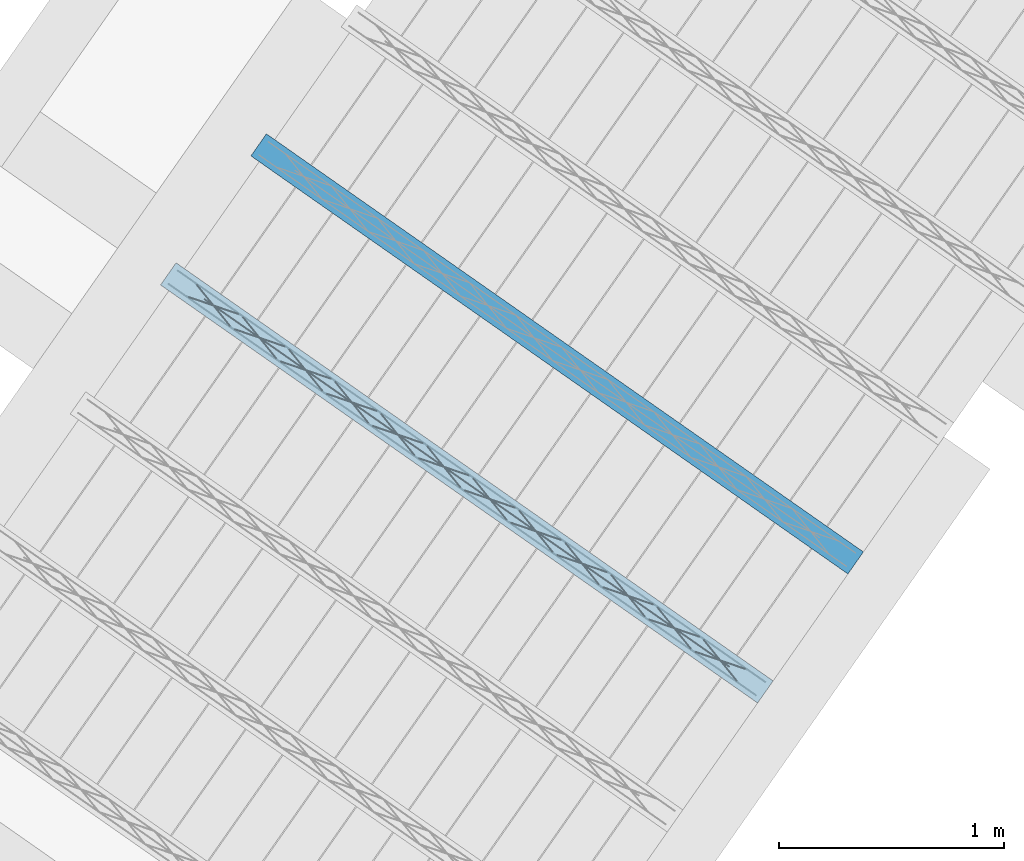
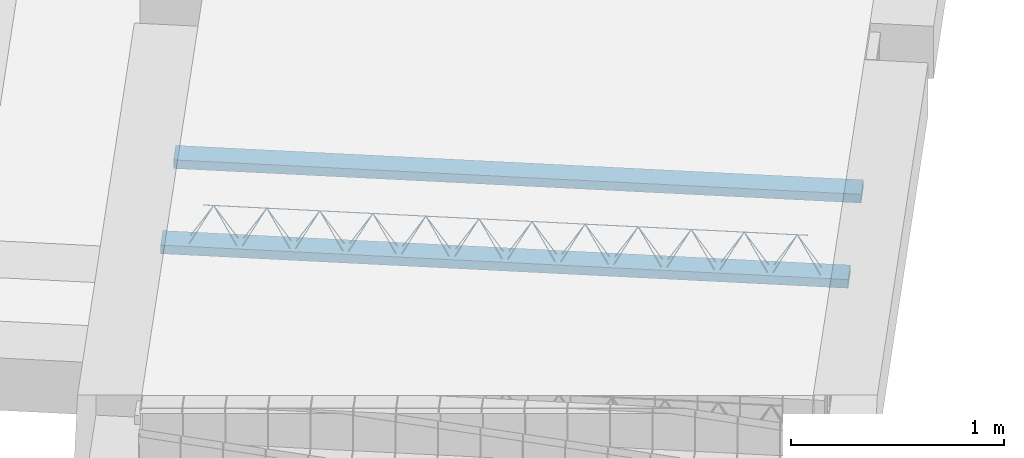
# One storey, part 8 of 46: 2 beams.
"""IFC2X3 building model written with IfcOpenShell, lengths in metres."""

from ifc_helpers import new_model, entity, si_unit, converted_unit, derived_unit, direction, frame, frame_2d, origin, origin_2d_with_axis, place, context, subcontext, project, spatial, rectangle, circle, extrude, material, type_object, element, save


model = new_model("IFC2X3")

# Units and contexts
model_context = context("Model", 3, precision=1e-05, world=origin(), true_north=direction((6.123031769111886e-17, 1.0)))
body_context = subcontext(model_context, "Body", "Model", "MODEL_VIEW")
ifc_project = project(units=[si_unit("LENGTHUNIT", "METRE"), si_unit("AREAUNIT", "SQUARE_METRE"), si_unit("VOLUMEUNIT", "CUBIC_METRE"), converted_unit("PLANEANGLEUNIT", "DEGREE", entity("IfcPlaneAngleMeasure", 0.017453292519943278), si_unit("PLANEANGLEUNIT", "RADIAN"), dimensions=[0, 0, 0, 0, 0, 0, 0]), si_unit("MASSUNIT", "GRAM", prefix="KILO"), derived_unit("MASSDENSITYUNIT", [(si_unit("MASSUNIT", "GRAM", prefix="KILO"), 1), (si_unit("LENGTHUNIT", "METRE"), -3)]), derived_unit("IONCONCENTRATIONUNIT", [(si_unit("MASSUNIT", "GRAM", prefix="KILO"), 1), (si_unit("LENGTHUNIT", "METRE"), -3)]), derived_unit("MOMENTOFINERTIAUNIT", [(si_unit("LENGTHUNIT", "METRE"), 4)]), si_unit("TIMEUNIT", "SECOND"), si_unit("FREQUENCYUNIT", "HERTZ"), si_unit("THERMODYNAMICTEMPERATUREUNIT", "DEGREE_CELSIUS"), derived_unit("THERMALTRANSMITTANCEUNIT", [(si_unit("MASSUNIT", "GRAM", prefix="KILO"), 1), (si_unit("THERMODYNAMICTEMPERATUREUNIT", "KELVIN"), -1), (si_unit("TIMEUNIT", "SECOND"), -3)]), derived_unit("THERMALCONDUCTANCEUNIT", [(si_unit("MASSUNIT", "GRAM", prefix="KILO"), 1), (si_unit("THERMODYNAMICTEMPERATUREUNIT", "KELVIN"), -1), (si_unit("TIMEUNIT", "SECOND"), -3), (si_unit("LENGTHUNIT", "METRE"), 1)]), derived_unit("VOLUMETRICFLOWRATEUNIT", [(si_unit("LENGTHUNIT", "METRE", prefix="DECI"), 3), (si_unit("TIMEUNIT", "SECOND"), -1)]), derived_unit("MASSFLOWRATEUNIT", [(si_unit("MASSUNIT", "GRAM", prefix="KILO"), 1), (si_unit("TIMEUNIT", "SECOND"), -1)]), derived_unit("ROTATIONALFREQUENCYUNIT", [(si_unit("TIMEUNIT", "SECOND"), -1)]), si_unit("ELECTRICCURRENTUNIT", "AMPERE"), si_unit("ELECTRICVOLTAGEUNIT", "VOLT"), si_unit("POWERUNIT", "WATT"), si_unit("FORCEUNIT", "NEWTON", prefix="KILO"), si_unit("ILLUMINANCEUNIT", "LUX"), si_unit("LUMINOUSFLUXUNIT", "LUMEN"), si_unit("LUMINOUSINTENSITYUNIT", "CANDELA"), si_unit("ENERGYUNIT", "JOULE"), derived_unit("USERDEFINED", [(si_unit("MASSUNIT", "GRAM", prefix="KILO"), -1), (si_unit("LENGTHUNIT", "METRE"), -2), (si_unit("TIMEUNIT", "SECOND"), 3), (si_unit("LUMINOUSFLUXUNIT", "LUMEN"), 1)]), derived_unit("USERDEFINED", [(si_unit("MASSUNIT", "GRAM", prefix="KILO"), 1), (si_unit("TIMEUNIT", "SECOND"), -3), (si_unit("LENGTHUNIT", "METRE"), 3), (si_unit("ELECTRICCURRENTUNIT", "AMPERE"), -2)]), derived_unit("SOUNDPOWERUNIT", [(si_unit("MASSUNIT", "GRAM", prefix="KILO"), 1), (si_unit("TIMEUNIT", "SECOND"), -3), (si_unit("LENGTHUNIT", "METRE"), 2)]), derived_unit("SOUNDPRESSUREUNIT", [(si_unit("MASSUNIT", "GRAM", prefix="KILO"), 1), (si_unit("LENGTHUNIT", "METRE"), -1), (si_unit("TIMEUNIT", "SECOND"), -2)]), derived_unit("LINEARVELOCITYUNIT", [(si_unit("LENGTHUNIT", "METRE"), 1), (si_unit("TIMEUNIT", "SECOND"), -1)]), si_unit("PRESSUREUNIT", "PASCAL"), derived_unit("USERDEFINED", [(si_unit("MASSUNIT", "GRAM", prefix="KILO"), 1), (si_unit("LENGTHUNIT", "METRE"), -2), (si_unit("TIMEUNIT", "SECOND"), -2)]), derived_unit("LINEARFORCEUNIT", [(si_unit("MASSUNIT", "GRAM", prefix="KILO"), 1), (si_unit("TIMEUNIT", "SECOND"), -2)]), derived_unit("PLANARFORCEUNIT", [(si_unit("MASSUNIT", "GRAM", prefix="KILO"), 1), (si_unit("LENGTHUNIT", "METRE"), -1), (si_unit("TIMEUNIT", "SECOND"), -2)]), derived_unit("SPECIFICHEATCAPACITYUNIT", [(si_unit("THERMODYNAMICTEMPERATUREUNIT", "KELVIN"), -1), (si_unit("LENGTHUNIT", "METRE"), 2), (si_unit("TIMEUNIT", "SECOND"), -2)]), derived_unit("HEATFLUXDENSITYUNIT", [(si_unit("MASSUNIT", "GRAM", prefix="KILO"), 1), (si_unit("TIMEUNIT", "SECOND"), -3)]), derived_unit("HEATINGVALUEUNIT", [(si_unit("LENGTHUNIT", "METRE"), 2), (si_unit("TIMEUNIT", "SECOND"), -2)]), derived_unit("VAPORPERMEABILITYUNIT", [(si_unit("LENGTHUNIT", "METRE"), -1), (si_unit("TIMEUNIT", "SECOND"), 1)]), derived_unit("DYNAMICVISCOSITYUNIT", [(si_unit("MASSUNIT", "GRAM", prefix="KILO"), 1), (si_unit("TIMEUNIT", "SECOND"), -1), (si_unit("LENGTHUNIT", "METRE"), -1)]), derived_unit("THERMALEXPANSIONCOEFFICIENTUNIT", [(si_unit("THERMODYNAMICTEMPERATUREUNIT", "KELVIN"), -1)]), derived_unit("MODULUSOFELASTICITYUNIT", [(si_unit("MASSUNIT", "GRAM", prefix="KILO"), 1), (si_unit("LENGTHUNIT", "METRE"), -1), (si_unit("TIMEUNIT", "SECOND"), -2)]), derived_unit("ISOTHERMALMOISTURECAPACITYUNIT", [(si_unit("MASSUNIT", "GRAM", prefix="KILO"), -1), (si_unit("LENGTHUNIT", "METRE"), 3)]), derived_unit("MOISTUREDIFFUSIVITYUNIT", [(si_unit("TIMEUNIT", "SECOND"), -1), (si_unit("LENGTHUNIT", "METRE"), 2)]), derived_unit("MASSPERLENGTHUNIT", [(si_unit("MASSUNIT", "GRAM", prefix="KILO"), 1), (si_unit("LENGTHUNIT", "METRE"), -1)]), derived_unit("THERMALRESISTANCEUNIT", [(si_unit("MASSUNIT", "GRAM", prefix="KILO"), -1), (si_unit("TIMEUNIT", "SECOND"), 3), (si_unit("THERMODYNAMICTEMPERATUREUNIT", "KELVIN"), 1)]), derived_unit("ACCELERATIONUNIT", [(si_unit("LENGTHUNIT", "METRE"), 1), (si_unit("TIMEUNIT", "SECOND"), -2)]), derived_unit("ANGULARVELOCITYUNIT", [(si_unit("TIMEUNIT", "SECOND"), -1), (si_unit("PLANEANGLEUNIT", "RADIAN"), 1)]), derived_unit("LINEARSTIFFNESSUNIT", [(si_unit("MASSUNIT", "GRAM", prefix="KILO"), 1), (si_unit("TIMEUNIT", "SECOND"), -2)]), derived_unit("WARPINGCONSTANTUNIT", [(si_unit("LENGTHUNIT", "METRE"), 6)]), derived_unit("LINEARMOMENTUNIT", [(si_unit("MASSUNIT", "GRAM", prefix="KILO"), 1), (si_unit("LENGTHUNIT", "METRE"), 1), (si_unit("TIMEUNIT", "SECOND"), -2)]), derived_unit("TORQUEUNIT", [(si_unit("MASSUNIT", "GRAM", prefix="KILO"), 1), (si_unit("LENGTHUNIT", "METRE"), 2), (si_unit("TIMEUNIT", "SECOND"), -2)])], contexts=[model_context])

# Site, building, storey
site_placement = place(None, origin())
site = spatial("IfcSite", under=ifc_project, at=site_placement, Name="Default", CompositionType="ELEMENT")
building_placement = place(site_placement, origin())
building = spatial("IfcBuilding", under=site, at=building_placement, CompositionType="ELEMENT")
storey_placement = place(building_placement, frame((0.0, 0.0, 99.52000000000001)))
storey = spatial("IfcBuildingStorey", under=building, at=storey_placement, Name="F1", CompositionType="ELEMENT", Elevation=99.52000000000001)

# Beams
beam_type = type_object("IfcBeamType", Name="Vigueta 4 (Paño 4) (Mf = 14.11)", PredefinedType="JOIST")
beam_1_placement = place(storey_placement, origin())
element("IfcBeam", 1, at=beam_1_placement, inside=storey, type_object=beam_type, Name="Vigueta 4 (Paño 4) (Mf = 14.11)", ObjectType="Mf = 14.11", context=body_context, shape_type="SweptSolid", body=[
    extrude(rectangle(XDim=3.24, YDim=0.12000000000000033, at=frame_2d((5.551115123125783e-16, 2.0122792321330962e-16), x_axis=(1.0, 0.0))), frame((6.986956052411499, -2.9997741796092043, 0.2000000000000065), z_axis=(0.0, 0.0, 1.0), x_axis=(0.8191520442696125, -0.5735764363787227, 0.0)), (0.0, 0.0, 1.0), 0.0499999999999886),
    extrude(circle(Radius=0.0025, at=origin_2d_with_axis()), frame((5.6589406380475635, -2.1138356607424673, 0.22500000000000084), z_axis=(0.8191520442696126, -0.5735764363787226, 0.0), x_axis=(-0.5735764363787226, -0.8191520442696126, 0.0)), (0.0, 0.0, 1.0), 3.191999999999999),
    extrude(circle(Radius=0.0025, at=origin_2d_with_axis()), frame((5.819664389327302, -2.1824277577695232, 0.4500000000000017), z_axis=(0.8191520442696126, -0.5735764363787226, 0.0), x_axis=(-0.5735764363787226, -0.8191520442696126, 0.0)), (0.0, 0.0, 1.0), 2.849999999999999),
    extrude(circle(Radius=0.0025, at=origin_2d_with_axis()), frame((8.195035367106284, -3.8896283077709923, 0.22500000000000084), z_axis=(-0.3145304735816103, 0.389334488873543, 0.8657304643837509), x_axis=(-0.7778747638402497, -0.6284193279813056, 0.0)), (0.0, 0.0, 1.0), 0.2598961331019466),
    extrude(circle(Radius=0.0025, at=origin_2d_with_axis()), frame((7.990247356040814, -3.7462341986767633, 0.22499999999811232), z_axis=(0.47343050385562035, -0.1624017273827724, 0.8657304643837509), x_axis=(-0.3244721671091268, -0.9458952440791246, 0.0)), (0.0, 0.0, 1.0), 0.25989613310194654),
    extrude(circle(Radius=0.0025, at=origin_2d_with_axis()), frame((7.990247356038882, -3.746234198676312, 0.22500000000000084), z_axis=(-0.3145304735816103, 0.389334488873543, 0.8657304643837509), x_axis=(-0.7778747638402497, -0.6284193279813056, 0.0)), (0.0, 0.0, 1.0), 0.2598961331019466),
    extrude(circle(Radius=0.0025, at=origin_2d_with_axis()), frame((7.78545934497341, -3.6028400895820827, 0.22499999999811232), z_axis=(0.47343050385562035, -0.1624017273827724, 0.8657304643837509), x_axis=(-0.3244721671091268, -0.9458952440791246, 0.0)), (0.0, 0.0, 1.0), 0.25989613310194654),
    extrude(circle(Radius=0.0025, at=origin_2d_with_axis()), frame((7.785459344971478, -3.602840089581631, 0.22500000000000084), z_axis=(-0.3145304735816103, 0.389334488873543, 0.8657304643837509), x_axis=(-0.7778747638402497, -0.6284193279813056, 0.0)), (0.0, 0.0, 1.0), 0.2598961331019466),
    extrude(circle(Radius=0.0025, at=origin_2d_with_axis()), frame((7.5806713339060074, -3.4594459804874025, 0.22499999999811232), z_axis=(0.47343050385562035, -0.1624017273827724, 0.8657304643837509), x_axis=(-0.3244721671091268, -0.9458952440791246, 0.0)), (0.0, 0.0, 1.0), 0.25989613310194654),
    extrude(circle(Radius=0.0025, at=origin_2d_with_axis()), frame((7.580671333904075, -3.4594459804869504, 0.22500000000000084), z_axis=(-0.3145304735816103, 0.389334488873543, 0.8657304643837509), x_axis=(-0.7778747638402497, -0.6284193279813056, 0.0)), (0.0, 0.0, 1.0), 0.2598961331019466),
    extrude(circle(Radius=0.0025, at=origin_2d_with_axis()), frame((7.375883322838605, -3.3160518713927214, 0.22499999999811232), z_axis=(0.47343050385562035, -0.1624017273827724, 0.8657304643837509), x_axis=(-0.3244721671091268, -0.9458952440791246, 0.0)), (0.0, 0.0, 1.0), 0.25989613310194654),
    extrude(circle(Radius=0.0025, at=origin_2d_with_axis()), frame((7.375883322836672, -3.3160518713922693, 0.22500000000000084), z_axis=(-0.3145304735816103, 0.389334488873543, 0.8657304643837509), x_axis=(-0.7778747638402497, -0.6284193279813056, 0.0)), (0.0, 0.0, 1.0), 0.2598961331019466),
    extrude(circle(Radius=0.0025, at=origin_2d_with_axis()), frame((7.171095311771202, -3.1726577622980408, 0.22499999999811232), z_axis=(0.47343050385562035, -0.1624017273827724, 0.8657304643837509), x_axis=(-0.3244721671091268, -0.9458952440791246, 0.0)), (0.0, 0.0, 1.0), 0.25989613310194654),
    extrude(circle(Radius=0.0025, at=origin_2d_with_axis()), frame((7.171095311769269, -3.172657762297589, 0.22500000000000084), z_axis=(-0.3145304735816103, 0.389334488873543, 0.8657304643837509), x_axis=(-0.7778747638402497, -0.6284193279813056, 0.0)), (0.0, 0.0, 1.0), 0.2598961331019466),
    extrude(circle(Radius=0.0025, at=origin_2d_with_axis()), frame((6.966307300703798, -3.0292636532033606, 0.22499999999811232), z_axis=(0.47343050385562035, -0.1624017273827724, 0.8657304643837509), x_axis=(-0.3244721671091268, -0.9458952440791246, 0.0)), (0.0, 0.0, 1.0), 0.25989613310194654),
    extrude(circle(Radius=0.0025, at=origin_2d_with_axis()), frame((6.966307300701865, -3.029263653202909, 0.22500000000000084), z_axis=(-0.3145304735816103, 0.389334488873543, 0.8657304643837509), x_axis=(-0.7778747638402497, -0.6284193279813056, 0.0)), (0.0, 0.0, 1.0), 0.2598961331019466),
    extrude(circle(Radius=0.0025, at=origin_2d_with_axis()), frame((6.761519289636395, -2.8858695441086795, 0.22499999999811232), z_axis=(0.47343050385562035, -0.1624017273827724, 0.8657304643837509), x_axis=(-0.3244721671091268, -0.9458952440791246, 0.0)), (0.0, 0.0, 1.0), 0.25989613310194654),
    extrude(circle(Radius=0.0025, at=origin_2d_with_axis()), frame((6.761519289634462, -2.885869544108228, 0.22500000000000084), z_axis=(-0.3145304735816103, 0.389334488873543, 0.8657304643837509), x_axis=(-0.7778747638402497, -0.6284193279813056, 0.0)), (0.0, 0.0, 1.0), 0.2598961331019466),
    extrude(circle(Radius=0.0025, at=origin_2d_with_axis()), frame((6.556731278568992, -2.742475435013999, 0.22499999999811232), z_axis=(0.47343050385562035, -0.1624017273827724, 0.8657304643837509), x_axis=(-0.3244721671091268, -0.9458952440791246, 0.0)), (0.0, 0.0, 1.0), 0.25989613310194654),
    extrude(circle(Radius=0.0025, at=origin_2d_with_axis()), frame((6.556731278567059, -2.742475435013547, 0.22500000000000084), z_axis=(-0.3145304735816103, 0.389334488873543, 0.8657304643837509), x_axis=(-0.7778747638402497, -0.6284193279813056, 0.0)), (0.0, 0.0, 1.0), 0.2598961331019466),
    extrude(circle(Radius=0.0025, at=origin_2d_with_axis()), frame((6.351943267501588, -2.599081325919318, 0.22499999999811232), z_axis=(0.47343050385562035, -0.1624017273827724, 0.8657304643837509), x_axis=(-0.3244721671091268, -0.9458952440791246, 0.0)), (0.0, 0.0, 1.0), 0.25989613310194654),
    extrude(circle(Radius=0.0025, at=origin_2d_with_axis()), frame((6.3519432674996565, -2.599081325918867, 0.22500000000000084), z_axis=(-0.3145304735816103, 0.389334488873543, 0.8657304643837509), x_axis=(-0.7778747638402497, -0.6284193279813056, 0.0)), (0.0, 0.0, 1.0), 0.2598961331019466),
    extrude(circle(Radius=0.0025, at=origin_2d_with_axis()), frame((6.147155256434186, -2.455687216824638, 0.22499999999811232), z_axis=(0.47343050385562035, -0.1624017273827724, 0.8657304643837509), x_axis=(-0.3244721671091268, -0.9458952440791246, 0.0)), (0.0, 0.0, 1.0), 0.25989613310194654),
    extrude(circle(Radius=0.0025, at=origin_2d_with_axis()), frame((6.147155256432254, -2.455687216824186, 0.22500000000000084), z_axis=(-0.3145304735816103, 0.389334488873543, 0.8657304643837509), x_axis=(-0.7778747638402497, -0.6284193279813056, 0.0)), (0.0, 0.0, 1.0), 0.2598961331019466),
    extrude(circle(Radius=0.0025, at=origin_2d_with_axis()), frame((5.942367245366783, -2.3122931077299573, 0.22499999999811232), z_axis=(0.47343050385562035, -0.1624017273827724, 0.8657304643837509), x_axis=(-0.3244721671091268, -0.9458952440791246, 0.0)), (0.0, 0.0, 1.0), 0.25989613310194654),
    extrude(circle(Radius=0.0025, at=origin_2d_with_axis()), frame((5.942367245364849, -2.3122931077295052, 0.22500000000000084), z_axis=(-0.3145304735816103, 0.389334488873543, 0.8657304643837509), x_axis=(-0.7778747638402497, -0.6284193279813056, 0.0)), (0.0, 0.0, 1.0), 0.2598961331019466),
    extrude(circle(Radius=0.0025, at=origin_2d_with_axis()), frame((5.73757923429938, -2.1688989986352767, 0.22499999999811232), z_axis=(0.47343050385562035, -0.1624017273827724, 0.8657304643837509), x_axis=(-0.3244721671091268, -0.9458952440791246, 0.0)), (0.0, 0.0, 1.0), 0.25989613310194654),
    extrude(circle(Radius=0.0025, at=origin_2d_with_axis()), frame((5.700238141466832, -2.0548567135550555, 0.22500000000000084), z_axis=(0.8191520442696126, -0.5735764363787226, 0.0), x_axis=(-0.5735764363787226, -0.8191520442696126, 0.0)), (0.0, 0.0, 1.0), 3.191999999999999),
    extrude(circle(Radius=0.0025, at=origin_2d_with_axis()), frame((8.236332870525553, -3.8306493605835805, 0.22500000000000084), z_axis=(-0.47343050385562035, 0.1624017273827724, 0.8657304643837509), x_axis=(-0.3244721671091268, -0.9458952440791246, 0.0)), (0.0, 0.0, 1.0), 0.25989613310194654),
    extrude(circle(Radius=0.0025, at=origin_2d_with_axis()), frame((8.031544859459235, -3.6872552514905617, 0.22499999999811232), z_axis=(0.3145304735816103, -0.389334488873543, 0.8657304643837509), x_axis=(-0.7778747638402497, -0.6284193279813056, 0.0)), (0.0, 0.0, 1.0), 0.2598961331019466),
    extrude(circle(Radius=0.0025, at=origin_2d_with_axis()), frame((8.03154485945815, -3.6872552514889, 0.22500000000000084), z_axis=(-0.47343050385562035, 0.1624017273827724, 0.8657304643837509), x_axis=(-0.3244721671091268, -0.9458952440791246, 0.0)), (0.0, 0.0, 1.0), 0.25989613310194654),
    extrude(circle(Radius=0.0025, at=origin_2d_with_axis()), frame((7.826756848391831, -3.543861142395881, 0.22499999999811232), z_axis=(0.3145304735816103, -0.389334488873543, 0.8657304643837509), x_axis=(-0.7778747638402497, -0.6284193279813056, 0.0)), (0.0, 0.0, 1.0), 0.2598961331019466),
    extrude(circle(Radius=0.0025, at=origin_2d_with_axis()), frame((7.826756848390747, -3.5438611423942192, 0.22500000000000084), z_axis=(-0.47343050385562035, 0.1624017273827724, 0.8657304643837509), x_axis=(-0.3244721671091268, -0.9458952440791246, 0.0)), (0.0, 0.0, 1.0), 0.25989613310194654),
    extrude(circle(Radius=0.0025, at=origin_2d_with_axis()), frame((7.621968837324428, -3.4004670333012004, 0.22499999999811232), z_axis=(0.3145304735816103, -0.389334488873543, 0.8657304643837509), x_axis=(-0.7778747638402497, -0.6284193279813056, 0.0)), (0.0, 0.0, 1.0), 0.2598961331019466),
    extrude(circle(Radius=0.0025, at=origin_2d_with_axis()), frame((7.621968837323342, -3.400467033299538, 0.22500000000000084), z_axis=(-0.47343050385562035, 0.1624017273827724, 0.8657304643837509), x_axis=(-0.3244721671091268, -0.9458952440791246, 0.0)), (0.0, 0.0, 1.0), 0.25989613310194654),
    extrude(circle(Radius=0.0025, at=origin_2d_with_axis()), frame((7.417180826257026, -3.2570729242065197, 0.22499999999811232), z_axis=(0.3145304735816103, -0.389334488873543, 0.8657304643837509), x_axis=(-0.7778747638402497, -0.6284193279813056, 0.0)), (0.0, 0.0, 1.0), 0.2598961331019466),
    extrude(circle(Radius=0.0025, at=origin_2d_with_axis()), frame((7.417180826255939, -3.2570729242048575, 0.22500000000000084), z_axis=(-0.47343050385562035, 0.1624017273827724, 0.8657304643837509), x_axis=(-0.3244721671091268, -0.9458952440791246, 0.0)), (0.0, 0.0, 1.0), 0.25989613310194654),
    extrude(circle(Radius=0.0025, at=origin_2d_with_axis()), frame((7.212392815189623, -3.1136788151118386, 0.22499999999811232), z_axis=(0.3145304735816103, -0.389334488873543, 0.8657304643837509), x_axis=(-0.7778747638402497, -0.6284193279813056, 0.0)), (0.0, 0.0, 1.0), 0.2598961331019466),
    extrude(circle(Radius=0.0025, at=origin_2d_with_axis()), frame((7.212392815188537, -3.1136788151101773, 0.22500000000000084), z_axis=(-0.47343050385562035, 0.1624017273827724, 0.8657304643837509), x_axis=(-0.3244721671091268, -0.9458952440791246, 0.0)), (0.0, 0.0, 1.0), 0.25989613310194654),
    extrude(circle(Radius=0.0025, at=origin_2d_with_axis()), frame((7.007604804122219, -2.9702847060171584, 0.22499999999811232), z_axis=(0.3145304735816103, -0.389334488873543, 0.8657304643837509), x_axis=(-0.7778747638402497, -0.6284193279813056, 0.0)), (0.0, 0.0, 1.0), 0.2598961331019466),
    extrude(circle(Radius=0.0025, at=origin_2d_with_axis()), frame((7.007604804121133, -2.970284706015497, 0.22500000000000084), z_axis=(-0.47343050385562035, 0.1624017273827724, 0.8657304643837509), x_axis=(-0.3244721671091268, -0.9458952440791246, 0.0)), (0.0, 0.0, 1.0), 0.25989613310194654),
    extrude(circle(Radius=0.0025, at=origin_2d_with_axis()), frame((6.802816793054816, -2.826890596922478, 0.22499999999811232), z_axis=(0.3145304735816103, -0.389334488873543, 0.8657304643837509), x_axis=(-0.7778747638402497, -0.6284193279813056, 0.0)), (0.0, 0.0, 1.0), 0.2598961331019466),
    extrude(circle(Radius=0.0025, at=origin_2d_with_axis()), frame((6.80281679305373, -2.826890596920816, 0.22500000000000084), z_axis=(-0.47343050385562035, 0.1624017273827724, 0.8657304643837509), x_axis=(-0.3244721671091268, -0.9458952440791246, 0.0)), (0.0, 0.0, 1.0), 0.25989613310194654),
    extrude(circle(Radius=0.0025, at=origin_2d_with_axis()), frame((6.598028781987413, -2.6834964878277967, 0.22499999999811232), z_axis=(0.3145304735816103, -0.389334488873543, 0.8657304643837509), x_axis=(-0.7778747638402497, -0.6284193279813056, 0.0)), (0.0, 0.0, 1.0), 0.2598961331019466),
    extrude(circle(Radius=0.0025, at=origin_2d_with_axis()), frame((6.598028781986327, -2.6834964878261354, 0.22500000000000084), z_axis=(-0.47343050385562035, 0.1624017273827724, 0.8657304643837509), x_axis=(-0.3244721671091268, -0.9458952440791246, 0.0)), (0.0, 0.0, 1.0), 0.25989613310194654),
    extrude(circle(Radius=0.0025, at=origin_2d_with_axis()), frame((6.393240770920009, -2.5401023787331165, 0.22499999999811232), z_axis=(0.3145304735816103, -0.389334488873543, 0.8657304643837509), x_axis=(-0.7778747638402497, -0.6284193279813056, 0.0)), (0.0, 0.0, 1.0), 0.2598961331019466),
    extrude(circle(Radius=0.0025, at=origin_2d_with_axis()), frame((6.393240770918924, -2.5401023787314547, 0.22500000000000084), z_axis=(-0.47343050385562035, 0.1624017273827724, 0.8657304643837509), x_axis=(-0.3244721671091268, -0.9458952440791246, 0.0)), (0.0, 0.0, 1.0), 0.25989613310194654),
    extrude(circle(Radius=0.0025, at=origin_2d_with_axis()), frame((6.1884527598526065, -2.3967082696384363, 0.22499999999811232), z_axis=(0.3145304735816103, -0.389334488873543, 0.8657304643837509), x_axis=(-0.7778747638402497, -0.6284193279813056, 0.0)), (0.0, 0.0, 1.0), 0.2598961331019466),
    extrude(circle(Radius=0.0025, at=origin_2d_with_axis()), frame((6.188452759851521, -2.396708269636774, 0.22500000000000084), z_axis=(-0.47343050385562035, 0.1624017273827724, 0.8657304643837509), x_axis=(-0.3244721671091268, -0.9458952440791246, 0.0)), (0.0, 0.0, 1.0), 0.25989613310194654),
    extrude(circle(Radius=0.0025, at=origin_2d_with_axis()), frame((5.983664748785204, -2.253314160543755, 0.22499999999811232), z_axis=(0.3145304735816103, -0.389334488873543, 0.8657304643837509), x_axis=(-0.7778747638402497, -0.6284193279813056, 0.0)), (0.0, 0.0, 1.0), 0.2598961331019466),
    extrude(circle(Radius=0.0025, at=origin_2d_with_axis()), frame((5.9836647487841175, -2.2533141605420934, 0.22500000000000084), z_axis=(-0.47343050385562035, 0.1624017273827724, 0.8657304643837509), x_axis=(-0.3244721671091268, -0.9458952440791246, 0.0)), (0.0, 0.0, 1.0), 0.25989613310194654),
    extrude(circle(Radius=0.0025, at=origin_2d_with_axis()), frame((5.778876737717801, -2.1099200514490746, 0.22499999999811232), z_axis=(0.3145304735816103, -0.389334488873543, 0.8657304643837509), x_axis=(-0.7778747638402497, -0.6284193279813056, 0.0)), (0.0, 0.0, 1.0), 0.2598961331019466),
])
ifc_material = material(Name="Hormigón armado")
beam_2_placement = place(storey_placement, origin())
element("IfcBeam", 2, at=beam_2_placement, inside=storey, material=ifc_material, Name="238289", context=body_context, shape_type="SweptSolid", body=[
    extrude(rectangle(XDim=0.04999999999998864, YDim=0.12000000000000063, at=frame_2d((0.0, -3.0878077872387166e-16), x_axis=(1.0, 0.0))), frame((6.061433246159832, -1.4971739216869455, 0.22500000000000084), z_axis=(0.8191520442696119, -0.5735764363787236, 0.0), x_axis=(0.0, 0.0, -1.0)), (0.0, 0.0, 1.0), 3.2399999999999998),
])

save(model, "model.ifc")
